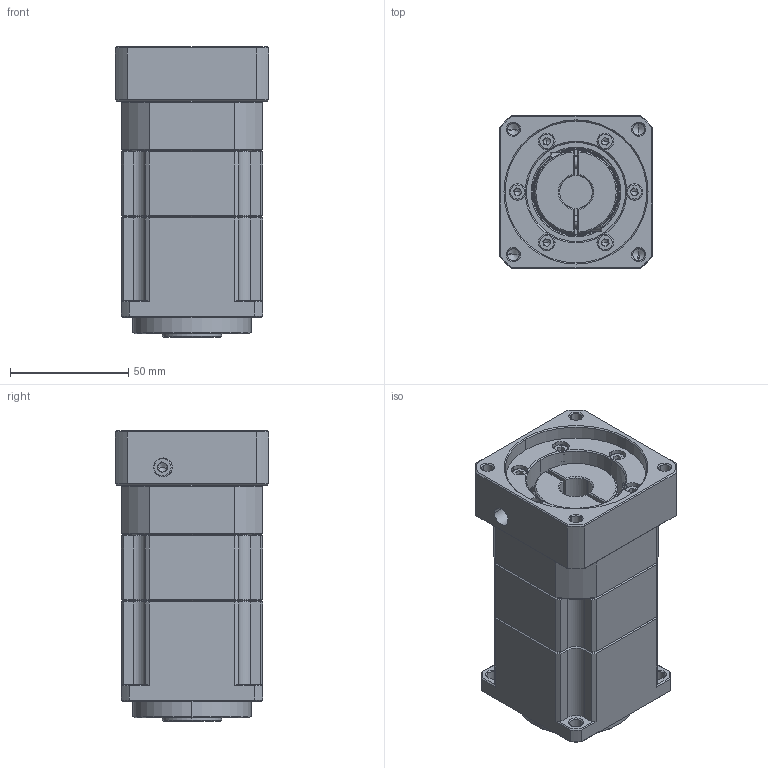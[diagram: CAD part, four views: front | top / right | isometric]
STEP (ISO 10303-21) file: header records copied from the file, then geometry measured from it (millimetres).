
FILE_DESCRIPTION (( 'STEP AP214' ), '1' );
FILE_NAME ('ZPB060-K16-L2-P1-14-60-75-M6.step', '2024-04-24T07:36:23', ( '' ), ( '' ), 'SwSTEP 2.0', 'SolidWorks 2016', '' );
FILE_SCHEMA (( 'AUTOMOTIVE_DESIGN' ));
Length unit declared in the file: millimetre
Products named in the file (1): ZPB060-K16-L2-P1-14-60-75-M6
Bounding box: 65 x 65 x 123 mm (x, y, z)
Volume: 349008.7 mm3; surface area: 80076.7 mm2
Topology: 16 solids, 17 shells, 2024 faces, 5665 edges, 3655 vertices
Faces by surface type: plane 1077, bspline 366, cylinder 261, cone 178, torus 96, sphere 46
Entity records: 102998 total; most frequent: CARTESIAN_POINT 31832, ORIENTED_EDGE 11028, DIRECTION 8628, EDGE_CURVE 5514, VERTEX_POINT 3586, LINE 3326, VECTOR 3326, AXIS2_PLACEMENT_3D 2651
